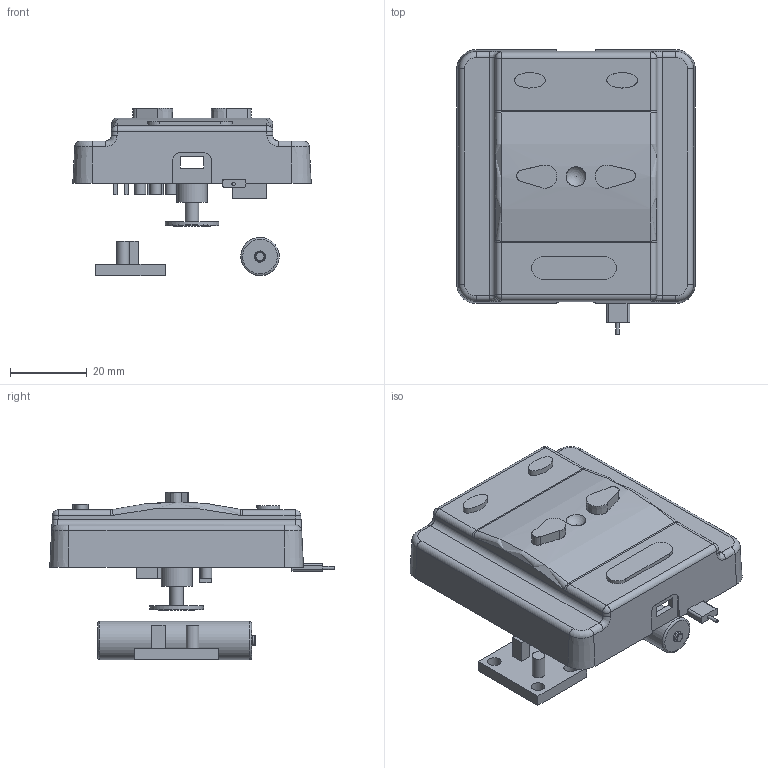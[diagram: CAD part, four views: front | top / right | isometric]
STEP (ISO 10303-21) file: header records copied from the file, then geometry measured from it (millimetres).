
FILE_DESCRIPTION(/* description */ (''),/* implementation_level */ '2;1');
FILE_NAME(/* name */ '样题2.stp',/* time_stamp */ '2022-03-14T20:14:31+08:00',/* author */ (''),/* organization */ (''),/* preprocessor_version */ 'ST-DEVELOPER v16',/* originating_system */ 'SIEMENS PLM Software NX 10.0',/* authorisation */ '');
FILE_SCHEMA (('AUTOMOTIVE_DESIGN { 1 0 10303 214 3 1 1 1 }'));
Length unit declared in the file: millimetre
Products named in the file (10): 屏; 喇叭; 电气元件2; 外接件1; 按钮1; 按钮2; 电池; 电气元件1; 前盖; 样题2
Assembly tree (10 placements, depth 2):
  样题2
    前盖
    电气元件1
    电池
    按钮2  x2
    按钮1
    外接件1
    电气元件2
    喇叭
    屏
Bounding box: 62 x 74 x 43.56 mm (x, y, z)
Volume: 22983.1 mm3; surface area: 23926.5 mm2
Topology: 13 solids, 13 shells, 299 faces, 726 edges, 470 vertices
Faces by surface type: plane 183, cylinder 78, torus 16, extrusion 8, sphere 6, cone 4, bspline 4
Full cylindrical faces by diameter (mm): 0.869 x1, 2.5 x1, 2.896 x3, 3 x4, 3.324 x1, 3.5 x5, 6 x4, 8 x1, 10 x1, 14 x1
Entity records: 9493 total; most frequent: CARTESIAN_POINT 2297, DIRECTION 1461, ORIENTED_EDGE 1348, EDGE_CURVE 674, AXIS2_PLACEMENT_3D 503, VERTEX_POINT 456, VECTOR 455, LINE 448
